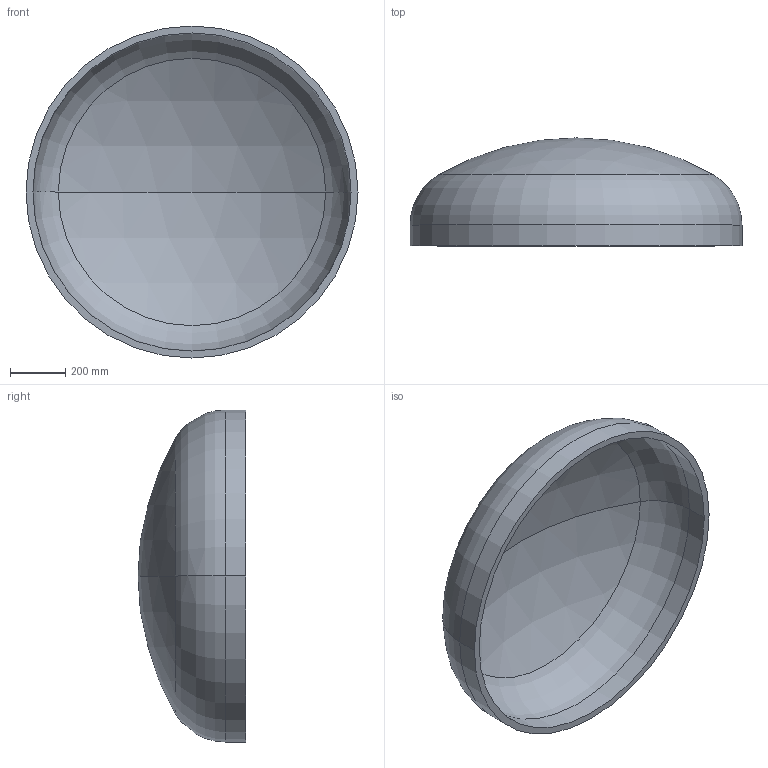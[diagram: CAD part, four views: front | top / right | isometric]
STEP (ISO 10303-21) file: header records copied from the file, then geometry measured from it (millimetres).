
FILE_DESCRIPTION (( 'STEP AP203' ), '1' );
FILE_NAME ('DIN 28013 Korbbogenform_-_Boden DIN 28013 - 1200 x 75 - I - s=25.step', '2016-07-01T09:24:24', ( '' ), ( '' ), 'SwSTEP 2.0', 'SolidWorks 2013', '' );
FILE_SCHEMA (( 'CONFIG_CONTROL_DESIGN' ));
Length unit declared in the file: millimetre
Products named in the file (1): DIN 28013 Korbbogenform_-_Boden DIN 28013 - 1200 x 75 - I - s=25
Bounding box: 1200 x 390.28 x 1200 mm (x, y, z)
Volume: 45030236 mm3; surface area: 3696011 mm2
Topology: 1 solids, 1 shells, 13 faces, 24 edges, 14 vertices
Faces by surface type: torus 4, cylinder 4, sphere 4, plane 1
Entity records: 407 total; most frequent: DIRECTION 72, CARTESIAN_POINT 52, ORIENTED_EDGE 48, AXIS2_PLACEMENT_3D 34, EDGE_CURVE 24, CIRCLE 20, EDGE_LOOP 14, VERTEX_POINT 14
